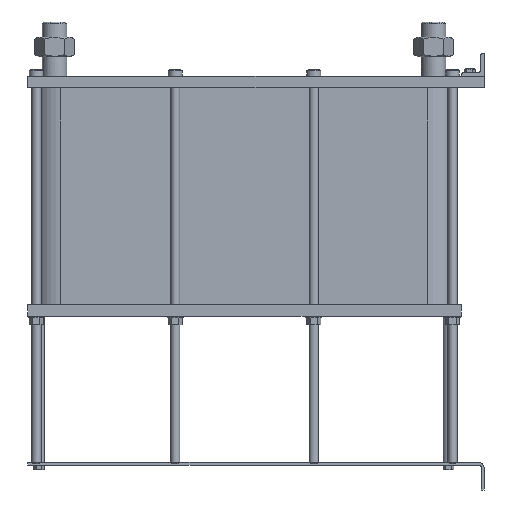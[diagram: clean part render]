
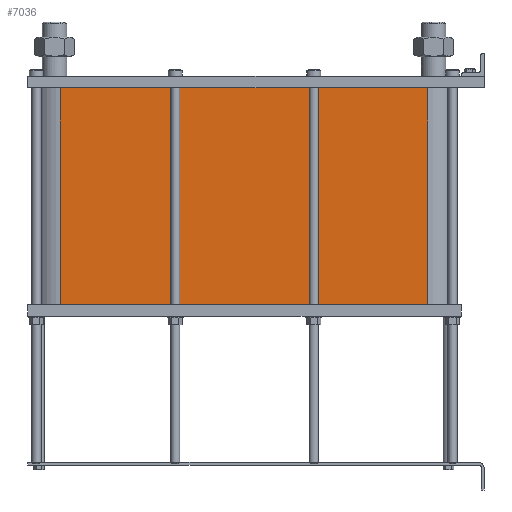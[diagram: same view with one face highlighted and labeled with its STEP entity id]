
A CAD part, left-side view. The second image highlights one B-rep face of the part: STEP entity #7036.
In plain terms, the highlighted planar face has unit normal (-1, 0, 0).
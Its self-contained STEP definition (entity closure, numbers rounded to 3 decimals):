
#999=LINE('',#15640,#1553);
#1031=LINE('',#15723,#1585);
#1032=LINE('',#15726,#1586);
#1033=LINE('',#15727,#1587);
#1553=VECTOR('',#9658,10.);
#1585=VECTOR('',#9736,10.);
#1586=VECTOR('',#9741,10.);
#1587=VECTOR('',#9742,10.);
#2117=FACE_OUTER_BOUND('',#2671,.T.);
#2671=EDGE_LOOP('',(#6246,#6247,#6248,#6249));
#3527=VERTEX_POINT('',#15634);
#3529=VERTEX_POINT('',#15638);
#3556=VERTEX_POINT('',#15720);
#3557=VERTEX_POINT('',#15722);
#4425=EDGE_CURVE('',#3529,#3527,#999,.T.);
#4466=EDGE_CURVE('',#3557,#3556,#1031,.T.);
#4468=EDGE_CURVE('',#3527,#3556,#1032,.T.);
#4469=EDGE_CURVE('',#3557,#3529,#1033,.T.);
#6246=ORIENTED_EDGE('',*,*,#4468,.F.);
#6247=ORIENTED_EDGE('',*,*,#4425,.F.);
#6248=ORIENTED_EDGE('',*,*,#4469,.F.);
#6249=ORIENTED_EDGE('',*,*,#4466,.T.);
#6608=PLANE('',#7812);
#7036=ADVANCED_FACE('',(#2117),#6608,.T.);
#7812=AXIS2_PLACEMENT_3D('',#15725,#9739,#9740);
#9658=DIRECTION('',(0.,0.,-1.));
#9736=DIRECTION('',(0.,0.,-1.));
#9739=DIRECTION('center_axis',(-1.,0.,0.));
#9740=DIRECTION('ref_axis',(0.,1.,0.));
#9741=DIRECTION('',(0.,1.,0.));
#9742=DIRECTION('',(0.,-1.,0.));
#15634=CARTESIAN_POINT('',(-72.,97.5,-375.1));
#15638=CARTESIAN_POINT('',(-72.,97.5,0.));
#15640=CARTESIAN_POINT('',(-72.,97.5,0.));
#15720=CARTESIAN_POINT('',(-72.,733.5,-375.1));
#15722=CARTESIAN_POINT('',(-72.,733.5,0.));
#15723=CARTESIAN_POINT('',(-72.,733.5,0.));
#15725=CARTESIAN_POINT('Origin',(-72.,97.5,0.));
#15726=CARTESIAN_POINT('',(-72.,256.5,-375.1));
#15727=CARTESIAN_POINT('',(-72.,733.5,0.));
